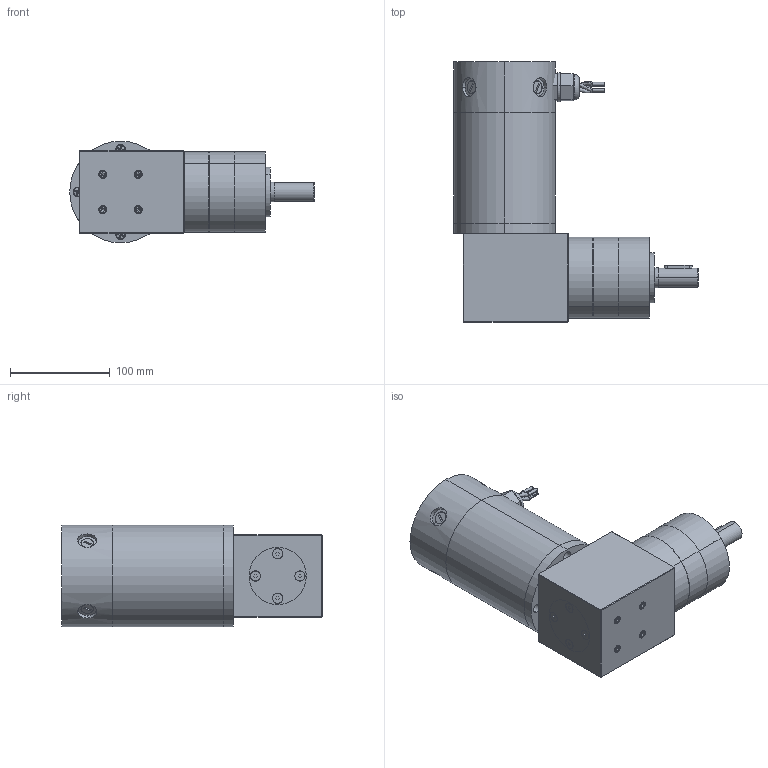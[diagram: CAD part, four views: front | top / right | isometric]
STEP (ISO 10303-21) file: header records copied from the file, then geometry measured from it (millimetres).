
FILE_DESCRIPTION (( 'STEP AP203' ), '1' );
FILE_NAME ('d40675agra2.step', '2018-12-07T19:48:48', ( '' ), ( '' ), 'SwSTEP 2.0', 'SolidWorks 2017', '' );
FILE_SCHEMA (( 'CONFIG_CONTROL_DESIGN' ));
Length unit declared in the file: inch
Products named in the file (1): d40675agra2
Bounding box: 244.55 x 260.35 x 101.6 mm (x, y, z)
Volume: 2604297.5 mm3; surface area: 267395 mm2
Topology: 29 solids, 29 shells, 1257 faces, 3143 edges, 1989 vertices
Faces by surface type: cylinder 723, plane 360, cone 109, torus 41, bspline 16, sphere 8
Entity records: 57325 total; most frequent: CARTESIAN_POINT 29896, ORIENTED_EDGE 6222, DIRECTION 5308, EDGE_CURVE 3111, AXIS2_PLACEMENT_3D 2001, VERTEX_POINT 1989, EDGE_LOOP 1370, VECTOR 1306
